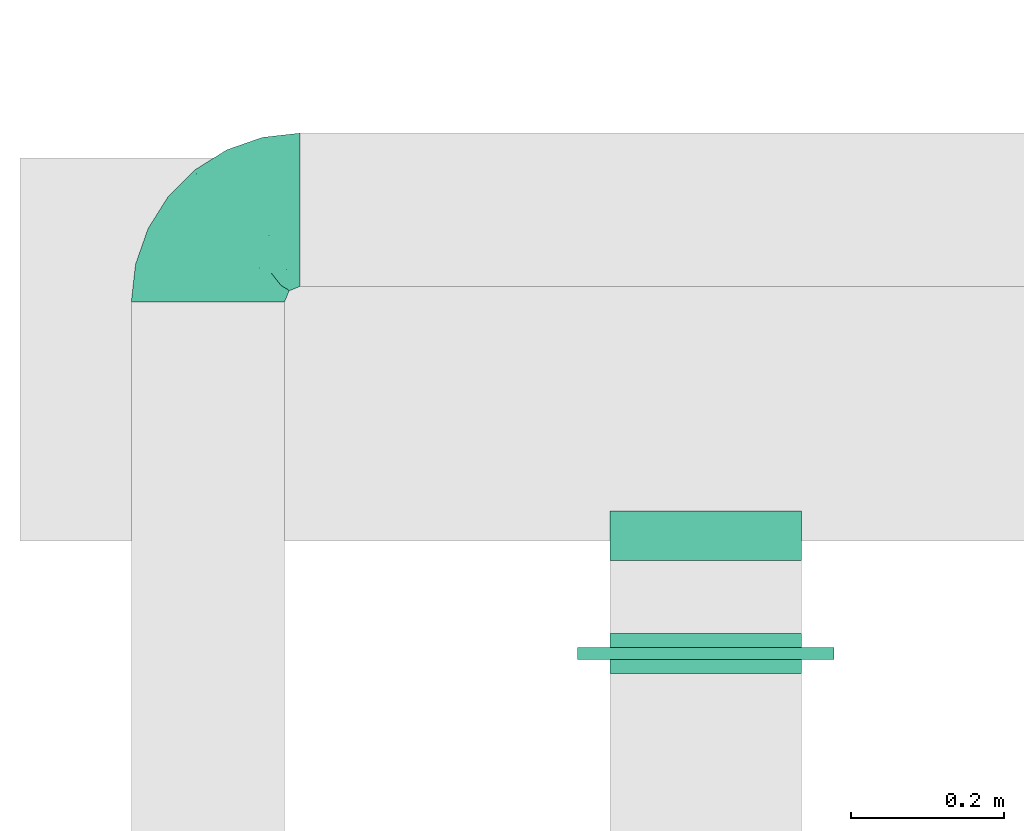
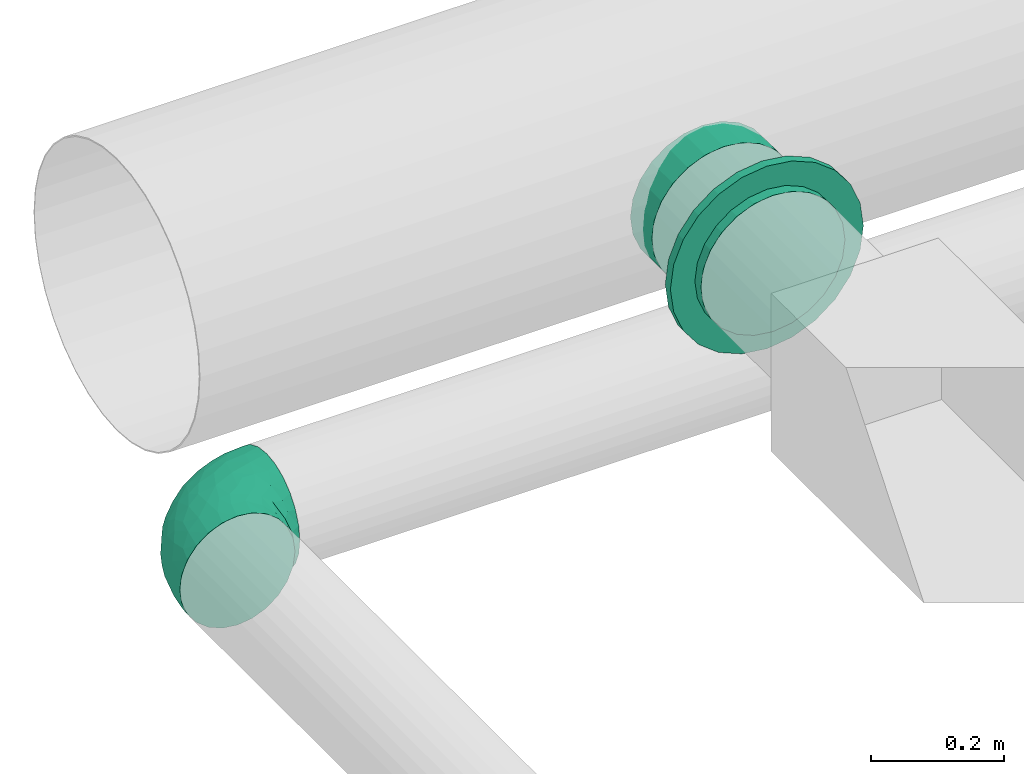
# One storey, part 3 of 31: 2 flow fittings, 1 flow controller.
"""IFC2X3 building model written with IfcOpenShell, lengths in millimetres."""

from ifc_helpers import new_model, entity, si_unit, converted_unit, derived_unit, direction, frame, origin_with_axes, place, context, subcontext, project, spatial, open_shell, surface_model, source, transform, mapped, type_object, element, save


model = new_model("IFC2X3")

# Units and contexts
model_context = context("Model", 3, precision=0.01, world=frame((0.0, 4.29681676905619e-09, 0.0)), true_north=direction((4.01073788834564e-13, 1.0)))
plan_context = context("Plan", 3, precision=0.01, world=frame((0.0, 4.29681676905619e-09, 0.0)), true_north=direction((4.01073788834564e-13, 1.0)))
body_context = subcontext(model_context, "Body", "Model", "MODEL_VIEW")
ifc_project = project(units=[converted_unit("PLANEANGLEUNIT", "DEGREE", entity("IfcPositiveLengthMeasure", 0.0174532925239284), si_unit("PLANEANGLEUNIT", "RADIAN"), dimensions=[0, 0, 0, 0, 0, 0, 0]), si_unit("AREAUNIT", "SQUARE_METRE"), si_unit("LENGTHUNIT", "METRE", prefix="MILLI"), si_unit("MASSUNIT", "GRAM", prefix="KILO"), si_unit("POWERUNIT", "WATT"), si_unit("PRESSUREUNIT", "PASCAL", prefix="KILO"), si_unit("FORCEUNIT", "NEWTON", prefix="KILO"), si_unit("ELECTRICVOLTAGEUNIT", "VOLT"), si_unit("ELECTRICCURRENTUNIT", "AMPERE"), si_unit("THERMODYNAMICTEMPERATUREUNIT", "DEGREE_CELSIUS"), si_unit("TIMEUNIT", "SECOND"), si_unit("VOLUMEUNIT", "CUBIC_METRE"), derived_unit("LINEARVELOCITYUNIT", [(si_unit("LENGTHUNIT", "METRE"), 1), (si_unit("TIMEUNIT", "SECOND"), -1)]), derived_unit("VOLUMETRICFLOWRATEUNIT", [(si_unit("VOLUMEUNIT", "CUBIC_METRE"), 1), (si_unit("TIMEUNIT", "SECOND"), -1)]), derived_unit("THERMALTRANSMITTANCEUNIT", [(si_unit("POWERUNIT", "WATT"), 1), (si_unit("THERMODYNAMICTEMPERATUREUNIT", "KELVIN"), -1), (si_unit("AREAUNIT", "SQUARE_METRE"), -1)]), derived_unit("SOUNDPRESSUREUNIT", [(si_unit("PRESSUREUNIT", "PASCAL"), 1)])], contexts=[model_context, plan_context])

# Site, building, storey
site_placement = place(None, frame((0.0, -4.29681676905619e-09, 0.0), z_axis=(0.0, 0.0, 1.0), x_axis=(1.0, 0.0, 0.0)))
site = spatial("IfcSite", under=ifc_project, at=site_placement, CompositionType="ELEMENT")
building_placement = place(site_placement, frame((0.0, 4.29681676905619e-09, 0.0), z_axis=(0.0, 0.0, 1.0), x_axis=(1.0, 0.0, 0.0)))
building = spatial("IfcBuilding", under=site, at=building_placement, Name="mc-building", CompositionType="ELEMENT")
storey_placement = place(building_placement, frame((0.0, 0.0, 210900.0), z_axis=(0.0, 0.0, 1.0), x_axis=(1.0, 0.0, 0.0)))
storey = spatial("IfcBuildingStorey", under=building, at=storey_placement, Name="Nivå F", CompositionType="ELEMENT", Elevation=210900.0)

# Flow controller
damper_type = type_object("IfcDamperType", Name="IRIS-025", PredefinedType="BALANCINGDAMPER")
shared_shape_1 = source(origin_with_axes(), body_context, "Body", "SurfaceModel", [
    surface_model("IfcShellBasedSurfaceModel", [(26.0, 32.35238, -120.74073), (26.0, 62.5, -108.25318), (26.0, 88.38835, -88.38835), (26.0, 108.25318, -62.5), (26.0, 120.74073, -32.35238), (26.0, -120.74073, -32.35238), (26.0, -125.0, 0.0), (26.0, 0.0, -125.0), (26.0, -62.5, -108.25318), (26.0, -32.35238, -120.74073), (26.0, -108.25318, -62.5), (26.0, -88.38835, -88.38835), (26.0, 125.0, 0.0), (26.0, 120.74073, 32.35238), (26.0, 108.25318, 62.5), (26.0, 88.38835, 88.38835), (26.0, -32.35238, 120.74073), (26.0, 32.35238, 120.74073), (26.0, 0.0, 125.0), (26.0, 62.5, 108.25318), (26.0, -108.25318, 62.5), (26.0, -120.74073, 32.35238), (26.0, -88.38835, 88.38835), (26.0, -62.5, 108.25318), (7.8, 88.38835, 88.38835), (7.8, 0.0, 125.0), (7.8, 32.35238, 120.74073), (7.8, 62.5, 108.25318), (7.8, 108.25318, 62.5), (7.8, 120.74073, 32.35238), (7.8, -32.35238, 120.74073), (7.8, -120.74073, -32.35238), (7.8, -88.38835, 88.38835), (7.8, -62.5, 108.25318), (7.8, -108.25318, 62.5), (7.8, -125.0, 0.0), (7.8, -120.74073, 32.35238), (7.8, 120.74073, -32.35238), (7.8, 32.35238, -120.74073), (7.8, 88.38835, -88.38835), (7.8, 108.25318, -62.5), (7.8, 62.5, -108.25318), (7.8, -62.5, -108.25318), (7.8, -108.25318, -62.5), (7.8, -88.38835, -88.38835), (7.8, 0.0, -125.0), (7.8, -32.35238, -120.74073), (7.8, 125.0, 0.0), (7.8, 167.5, 0.0), (7.8, 43.35219, -161.79258), (7.8, 83.75, -145.05925), (7.8, 161.79258, -43.35219), (7.8, 118.44038, -118.44038), (7.8, 145.05925, -83.75), (7.8, -145.05925, -83.75), (7.8, 0.0, -167.5), (7.8, -83.75, -145.05925), (7.8, -43.35219, -161.79258), (7.8, -118.44038, -118.44038), (7.8, -161.79258, -43.35219), (7.8, 161.79258, 43.35219), (7.8, 145.05925, 83.75), (7.8, 118.44038, 118.44038), (7.8, 43.35219, 161.79258), (7.8, -145.05925, 83.75), (7.8, 83.75, 145.05925), (7.8, -43.35219, 161.79258), (7.8, 0.0, 167.5), (7.8, -161.79258, 43.35219), (7.8, -167.5, 0.0), (7.8, -118.44038, 118.44038), (7.8, -83.75, 145.05925), (-7.8, 43.35219, 161.79258), (-7.8, -43.35219, 161.79258), (-7.8, 0.0, 167.5), (-7.8, 118.44038, 118.44038), (-7.8, 83.75, 145.05925), (-7.8, 145.05925, 83.75), (-7.8, 161.79258, 43.35219), (-7.8, -145.05925, 83.75), (-7.8, -118.44038, 118.44038), (-7.8, -83.75, 145.05925), (-7.8, -167.5, 0.0), (-7.8, -161.79258, 43.35219), (-7.8, 161.79258, -43.35219), (-7.8, -145.05925, -83.75), (-7.8, 43.35219, -161.79258), (-7.8, 145.05925, -83.75), (-7.8, 118.44038, -118.44038), (-7.8, 83.75, -145.05925), (-7.8, -83.75, -145.05925), (-7.8, -118.44038, -118.44038), (-7.8, -161.79258, -43.35219), (-7.8, 0.0, -167.5), (-7.8, -43.35219, -161.79258), (-7.8, 167.5, 0.0), (-7.8, 32.35238, -120.74073), (-7.8, 62.5, -108.25318), (-7.8, 88.38835, -88.38835), (-7.8, 108.25318, -62.5), (-7.8, 120.74073, -32.35238), (-7.8, -120.74073, -32.35238), (-7.8, -125.0, 0.0), (-7.8, 0.0, -125.0), (-7.8, -62.5, -108.25318), (-7.8, -32.35238, -120.74073), (-7.8, -108.25318, -62.5), (-7.8, -88.38835, -88.38835), (-7.8, 125.0, 0.0), (-7.8, 120.74073, 32.35238), (-7.8, 108.25318, 62.5), (-7.8, 88.38835, 88.38835), (-7.8, -32.35238, 120.74073), (-7.8, 32.35238, 120.74073), (-7.8, 0.0, 125.0), (-7.8, 62.5, 108.25318), (-7.8, -108.25318, 62.5), (-7.8, -120.74073, 32.35238), (-7.8, -88.38835, 88.38835), (-7.8, -62.5, 108.25318), (-26.0, 88.38835, 88.38835), (-26.0, 0.0, 125.0), (-26.0, 32.35238, 120.74073), (-26.0, 62.5, 108.25318), (-26.0, 108.25318, 62.5), (-26.0, 120.74073, 32.35238), (-26.0, -32.35238, 120.74073), (-26.0, -120.74073, -32.35238), (-26.0, -88.38835, 88.38835), (-26.0, -62.5, 108.25318), (-26.0, -108.25318, 62.5), (-26.0, -125.0, 0.0), (-26.0, -120.74073, 32.35238), (-26.0, 120.74073, -32.35238), (-26.0, 32.35238, -120.74073), (-26.0, 88.38835, -88.38835), (-26.0, 108.25318, -62.5), (-26.0, 62.5, -108.25318), (-26.0, -62.5, -108.25318), (-26.0, -108.25318, -62.5), (-26.0, -88.38835, -88.38835), (-26.0, 0.0, -125.0), (-26.0, -32.35238, -120.74073), (-26.0, 125.0, 0.0)], [open_shell([[[0, 1, 2]], [[0, 2, 3]], [[0, 4, 5]], [[4, 0, 3]], [[6, 5, 4]], [[7, 8, 9]], [[7, 0, 8]], [[8, 10, 11]], [[10, 8, 5]], [[0, 5, 8]], [[4, 12, 6]], [[13, 14, 15]], [[16, 13, 15]], [[17, 18, 15]], [[17, 15, 19]], [[16, 15, 18]], [[6, 20, 21]], [[20, 6, 16]], [[22, 16, 23]], [[16, 22, 20]], [[6, 13, 16]], [[13, 6, 12]], [[24, 25, 26]], [[24, 26, 27]], [[24, 28, 29]], [[25, 24, 30]], [[31, 30, 24]], [[30, 32, 33]], [[32, 30, 34]], [[34, 35, 36]], [[35, 34, 30]], [[35, 30, 31]], [[31, 24, 29]], [[37, 38, 29]], [[39, 37, 40]], [[39, 41, 38]], [[39, 38, 37]], [[29, 38, 42]], [[43, 42, 44]], [[42, 43, 31]], [[42, 45, 46]], [[31, 29, 42]], [[38, 45, 42]], [[37, 29, 47]], [[31, 5, 35]], [[43, 10, 31]], [[8, 44, 42]], [[43, 44, 11]], [[9, 42, 46]], [[31, 10, 5]], [[5, 6, 35]], [[9, 8, 42]], [[11, 44, 8]], [[11, 10, 43]], [[7, 9, 46]], [[46, 45, 7]], [[38, 0, 45]], [[41, 1, 38]], [[3, 39, 40]], [[41, 39, 2]], [[4, 40, 37]], [[41, 2, 1]], [[1, 0, 38]], [[12, 4, 37]], [[3, 40, 4]], [[3, 2, 39]], [[47, 12, 37]], [[45, 0, 7]], [[29, 13, 47]], [[28, 14, 29]], [[19, 24, 27]], [[28, 24, 15]], [[17, 27, 26]], [[29, 14, 13]], [[13, 12, 47]], [[17, 19, 27]], [[15, 24, 19]], [[15, 14, 28]], [[18, 17, 26]], [[26, 25, 18]], [[16, 25, 30]], [[33, 23, 30]], [[20, 34, 36]], [[21, 36, 35]], [[33, 22, 23]], [[23, 16, 30]], [[32, 20, 22]], [[32, 34, 20]], [[20, 36, 21]], [[35, 6, 21]], [[32, 22, 33]], [[25, 16, 18]], [[48, 49, 50]], [[51, 50, 52]], [[51, 48, 50]], [[51, 52, 53]], [[49, 48, 54]], [[55, 56, 57]], [[55, 49, 56]], [[56, 54, 58]], [[49, 54, 56]], [[48, 59, 54]], [[48, 60, 59]], [[60, 61, 62]], [[60, 62, 63]], [[60, 63, 64]], [[63, 62, 65]], [[66, 63, 67]], [[59, 68, 69]], [[64, 68, 59]], [[70, 66, 71]], [[66, 70, 64]], [[63, 66, 64]], [[64, 59, 60]], [[72, 73, 74]], [[75, 72, 76]], [[75, 77, 78]], [[75, 78, 72]], [[79, 72, 78]], [[73, 80, 81]], [[80, 73, 79]], [[79, 82, 83]], [[79, 73, 72]], [[78, 82, 79]], [[78, 84, 82]], [[82, 84, 85]], [[86, 84, 87]], [[88, 89, 86]], [[88, 86, 87]], [[85, 84, 86]], [[85, 90, 91]], [[92, 82, 85]], [[90, 93, 94]], [[90, 85, 86]], [[93, 90, 86]], [[84, 78, 95]], [[92, 59, 82]], [[85, 54, 92]], [[56, 91, 90]], [[85, 91, 58]], [[57, 90, 94]], [[92, 54, 59]], [[59, 69, 82]], [[57, 56, 90]], [[58, 91, 56]], [[58, 54, 85]], [[55, 57, 94]], [[94, 93, 55]], [[86, 49, 93]], [[89, 50, 86]], [[53, 88, 87]], [[89, 88, 52]], [[51, 87, 84]], [[89, 52, 50]], [[50, 49, 86]], [[48, 51, 84]], [[53, 87, 51]], [[53, 52, 88]], [[95, 48, 84]], [[93, 49, 55]], [[78, 60, 95]], [[77, 61, 78]], [[65, 75, 76]], [[77, 75, 62]], [[63, 76, 72]], [[78, 61, 60]], [[60, 48, 95]], [[63, 65, 76]], [[62, 75, 65]], [[62, 61, 77]], [[67, 63, 72]], [[72, 74, 67]], [[74, 73, 66]], [[64, 79, 83]], [[79, 70, 80]], [[68, 83, 82]], [[73, 71, 66]], [[71, 73, 81]], [[71, 81, 70]], [[81, 80, 70]], [[79, 64, 70]], [[68, 64, 83]], [[82, 69, 68]], [[74, 66, 67]], [[96, 97, 98]], [[96, 98, 99]], [[96, 100, 101]], [[100, 96, 99]], [[102, 101, 100]], [[103, 104, 105]], [[103, 96, 104]], [[104, 106, 107]], [[106, 104, 101]], [[96, 101, 104]], [[100, 108, 102]], [[109, 110, 111]], [[112, 109, 111]], [[113, 114, 111]], [[113, 111, 115]], [[112, 111, 114]], [[102, 116, 117]], [[116, 102, 112]], [[118, 112, 119]], [[112, 118, 116]], [[102, 109, 112]], [[109, 102, 108]], [[120, 121, 122]], [[120, 122, 123]], [[120, 124, 125]], [[121, 120, 126]], [[127, 126, 120]], [[126, 128, 129]], [[128, 126, 130]], [[130, 131, 132]], [[131, 130, 126]], [[131, 126, 127]], [[127, 120, 125]], [[133, 134, 125]], [[135, 133, 136]], [[135, 137, 134]], [[135, 134, 133]], [[125, 134, 138]], [[139, 138, 140]], [[138, 139, 127]], [[138, 141, 142]], [[127, 125, 138]], [[134, 141, 138]], [[133, 125, 143]], [[127, 101, 131]], [[139, 106, 127]], [[104, 140, 138]], [[139, 140, 107]], [[105, 138, 142]], [[127, 106, 101]], [[101, 102, 131]], [[105, 104, 138]], [[107, 140, 104]], [[107, 106, 139]], [[103, 105, 142]], [[142, 141, 103]], [[134, 96, 141]], [[137, 97, 134]], [[99, 135, 136]], [[137, 135, 98]], [[100, 136, 133]], [[137, 98, 97]], [[97, 96, 134]], [[108, 100, 133]], [[99, 136, 100]], [[99, 98, 135]], [[143, 108, 133]], [[141, 96, 103]], [[125, 109, 143]], [[124, 110, 125]], [[115, 120, 123]], [[124, 120, 111]], [[113, 123, 122]], [[125, 110, 109]], [[109, 108, 143]], [[113, 115, 123]], [[111, 120, 115]], [[111, 110, 124]], [[114, 113, 122]], [[122, 121, 114]], [[112, 121, 126]], [[129, 119, 126]], [[116, 130, 132]], [[117, 132, 131]], [[129, 118, 119]], [[119, 112, 126]], [[128, 116, 118]], [[128, 130, 116]], [[116, 132, 117]], [[131, 102, 117]], [[128, 118, 129]], [[121, 112, 114]]])]),
])
flow_controller_placement = place(storey_placement, frame((715332.69489, 438035.23478, 3950.0), z_axis=(0.0, 0.0, 1.0), x_axis=(0.0, -1.0, 0.0)))
element("IfcFlowController", 1, at=flow_controller_placement, inside=storey, type_object=damper_type, Name="IRIS-025", context=body_context, shape_type="MappedRepresentation", body=[
    mapped(shared_shape_1, transform((0.0, 0.0, 0.0), scale=1.0)),
])

# Flow fittings
duct_fitting_type_1 = type_object("IfcDuctFittingType", Name="magicirc_elbow_short_001", PredefinedType="BEND")
shared_shape_2 = source(origin_with_axes(), body_context, "Body", "SurfaceModel", [
    surface_model("IfcShellBasedSurfaceModel", [(-120.0, 0.0, -100.0), (-120.0, -86.60254, -50.0), (-120.0, 25.8819, -96.59259), (-120.0, 50.0, -86.60254), (-120.0, 70.71068, -70.71068), (-120.0, 96.59259, -25.8819), (-120.0, 86.60254, -50.0), (-120.0, -50.0, -86.60254), (-120.0, -70.71068, -70.71068), (-120.0, -25.8819, -96.59259), (-120.0, -96.59259, -25.8819), (-120.0, -100.0, 0.0), (-120.0, 96.59259, 25.8819), (-120.0, -96.59259, 25.8819), (-120.0, 86.60254, 50.0), (-120.0, 25.8819, 96.59259), (-120.0, 50.0, 86.60254), (-120.0, 70.71068, 70.71068), (-120.0, -25.8819, 96.59259), (-120.0, -70.71068, 70.71068), (-120.0, -50.0, 86.60254), (-120.0, -86.60254, 50.0), (-120.0, 0.0, 100.0), (-120.0, 100.0, 0.0), (-25.8819, 120.0, -96.59259), (70.71068, 120.0, -70.71068), (0.0, 120.0, -100.0), (-70.71068, 120.0, -70.71068), (-50.0, 120.0, -86.60254), (-86.60254, 120.0, -50.0), (-96.59259, 120.0, -25.8819), (86.60254, 120.0, -50.0), (25.8819, 120.0, -96.59259), (50.0, 120.0, -86.60254), (100.0, 120.0, 0.0), (96.59259, 120.0, -25.8819), (-96.59259, 120.0, 25.8819), (96.59259, 120.0, 25.8819), (-25.8819, 120.0, 96.59259), (-86.60254, 120.0, 50.0), (-70.71068, 120.0, 70.71068), (-50.0, 120.0, 86.60254), (25.8819, 120.0, 96.59259), (86.60254, 120.0, 50.0), (50.0, 120.0, 86.60254), (70.71068, 120.0, 70.71068), (0.0, 120.0, 100.0), (-100.0, 120.0, 0.0), (-57.47657, 95.22229, 84.95805), (-85.33946, -92.96309, 28.79275), (-95.20929, -97.20676, 0.0), (-84.48473, -65.01559, 72.95431), (-52.96075, -70.60035, 57.16979), (-58.29219, -58.77958, 72.2572), (-71.0454, -94.48414, 0.0), (-33.46621, 86.30074, 96.24781), (-7.45333, 88.76819, 99.94878), (-26.53059, -25.83103, 84.66541), (5.23459, -24.1841, 70.44192), (-1.23107, 1.23105, 87.74618), (-103.71213, 103.71213, 24.44784), (-95.28171, 98.70414, 48.64074), (-78.83961, -43.63421, 87.3226), (48.45058, -8.12007, 40.03254), (39.62941, -27.51041, 22.8702), (55.13075, -9.11298, 21.86769), (27.15427, -27.15428, 47.29752), (-0.9865, -46.35038, 53.41318), (-49.25997, -85.42957, 23.21428), (-69.41482, -80.94006, 48.93369), (34.63169, 2.36241, 66.9375), (-59.03727, -17.74459, 95.19283), (-92.36993, -18.34983, 97.75252), (-98.24586, -81.70799, 55.95793), (-87.21661, 7.38787, 99.96319), (-79.82304, 33.86298, 96.83649), (-103.25245, 34.36931, 94.48617), (-49.8635, 16.95363, 99.89181), (-93.99414, 57.52782, 85.21417), (-13.524, 31.6217, 98.29715), (-30.34675, -2.85909, 94.71053), (-102.74619, 77.59979, 67.01377), (-105.2102, 88.7141, 52.03645), (94.48414, 71.0454, 0.0), (92.96309, 85.33946, 28.79275), (85.42957, 49.25997, 23.21428), (18.34983, 92.36993, 97.75252), (-37.44754, -44.66633, 76.66985), (-66.8783, 56.54931, 92.80405), (65.01559, 84.48473, 72.95431), (43.6342, 78.83961, 87.3226), (37.67702, 38.38344, 81.78155), (58.58205, 33.30331, 61.93165), (58.77958, 58.29217, 72.2572), (14.52663, -47.57763, 31.54394), (81.70799, 98.24586, 55.95793), (97.20676, 95.20929, 0.0), (75.2275, 38.8764, 40.54554), (80.94006, 69.41482, 48.93369), (-19.32309, 64.21329, 99.87988), (-105.85786, 105.85786, 0.0), (17.74458, 59.03726, 95.19283), (70.60036, 52.96074, 57.16978), (-82.76473, 82.76473, 73.92657), (-77.59979, 102.74619, 67.01377), (-38.87641, -75.2275, 40.54555), (-40.86148, 50.04827, 98.96107), (-25.82378, -76.70765, 19.45345), (-49.50418, 71.23352, 93.94065), (-57.3172, 35.12243, 98.9453), (65.10804, 3.68891, 0.0), (65.80674, 11.30259, 30.40508), (15.01777, 28.10412, 90.12797), (-0.1518, 65.0789, 99.29745), (-47.79548, -86.34864, 0.0), (-67.45496, 75.91085, 85.7741), (-3.68891, -65.10804, 0.0), (17.16776, -52.00293, 0.0), (-11.30259, -65.80674, 30.40508), (-24.54558, -78.21315, 0.0), (76.76895, 27.91333, 23.28633), (86.34864, 47.79548, 0.0), (58.40844, 13.74403, 48.13414), (52.00293, -17.16776, 0.0), (20.33542, 8.19535, 80.42602), (-51.11653, -33.50476, 87.58865), (-33.30333, -58.58206, 61.93166), (-17.26255, -60.80757, 47.57586), (78.21315, 24.54558, 0.0), (34.58534, -34.58534, 0.0), (-86.30074, 33.4662, -96.24781), (-34.36932, 103.25245, -94.48617), (-11.30259, -65.80673, -30.40508), (9.11298, -55.13075, -21.86769), (-98.24586, -81.70799, -55.95793), (-88.7682, 7.45333, -99.94878), (43.63421, 78.83961, -87.3226), (-98.70414, 95.28171, -48.64074), (-82.76473, 82.76473, -73.92657), (-102.74619, 77.59979, -67.01377), (85.42957, 49.25997, -23.21428), (75.22749, 38.8764, -40.54555), (80.94006, 69.41482, -48.93369), (27.15427, -27.15428, -47.29753), (47.57763, -14.52663, -31.54396), (27.51041, -39.62941, -22.8702), (-71.23352, 49.50417, -93.94066), (-56.54932, 66.8783, -92.80405), (-50.04827, 40.86148, -98.96107), (-33.86298, 79.82303, -96.83649), (-57.52782, 93.99414, -85.21417), (-16.95364, 49.8635, -99.89182), (-31.6217, 13.52399, -98.29715), (-85.33946, -92.96309, -28.79275), (24.18408, -5.23461, -70.44192), (46.35038, 0.9865, -53.41318), (65.01559, 84.48472, -72.95431), (-84.48473, -65.01559, -72.95431), (-78.83961, -43.63421, -87.3226), (-103.71213, 103.71213, -24.44784), (-95.22229, 57.47657, -84.95805), (-49.25997, -85.42957, -23.21428), (-92.36993, -18.34984, -97.75252), (-38.87641, -75.2275, -40.54555), (-69.41482, -80.94006, -48.93369), (-88.7141, 105.2102, -52.03645), (-7.38786, 87.21659, -99.96319), (17.74459, 59.03726, -95.19283), (-33.30333, -58.58206, -61.93166), (-52.96075, -70.60035, -57.16979), (-77.59979, 102.74619, -67.01377), (-38.38346, -37.67703, -81.78155), (-2.36242, -34.6317, -66.93751), (18.34983, 92.36993, -97.75252), (81.70799, 98.24586, -55.95793), (8.12006, -48.45058, -40.03254), (-1.23106, 1.23105, -87.74618), (25.83103, 26.53058, -84.6654), (92.96309, 85.33946, -28.79275), (76.70765, 25.82378, -19.45345), (-59.03727, -17.74459, -95.19283), (2.8591, 30.34673, -94.71053), (-64.21329, 19.32309, -99.87988), (58.77958, 58.29219, -72.2572), (70.60035, 52.96075, -57.16979), (-58.29219, -58.77958, -72.2572), (-35.12244, 57.3172, -98.9453), (44.66633, 37.44754, -76.66985), (-28.10413, -15.01778, -90.12797), (-65.07891, 0.1518, -99.29745), (-75.91086, 67.45496, -85.7741), (-27.91333, -76.76895, -23.28633), (-13.74403, -58.40844, -48.13415), (65.80673, 11.30258, -30.40508), (-8.19536, -20.33543, -80.42602), (33.50476, 51.11653, -87.58865), (58.58205, 33.30333, -61.93166), (60.80757, 17.26255, -47.57586)], [open_shell([[[0, 1, 2]], [[3, 2, 4]], [[5, 6, 4]], [[1, 4, 2]], [[4, 1, 5]], [[7, 8, 9]], [[8, 0, 9]], [[10, 11, 1]], [[1, 0, 8]], [[1, 11, 5]], [[11, 12, 5]], [[12, 11, 13]], [[14, 12, 15]], [[15, 16, 17]], [[14, 15, 17]], [[15, 12, 18]], [[19, 20, 21]], [[13, 21, 20]], [[13, 20, 12]], [[20, 18, 12]], [[18, 22, 15]], [[23, 5, 12]], [[24, 25, 26]], [[27, 24, 28]], [[27, 29, 30]], [[24, 27, 31]], [[30, 31, 27]], [[32, 25, 33]], [[32, 26, 25]], [[31, 34, 35]], [[25, 24, 31]], [[30, 34, 31]], [[30, 36, 34]], [[37, 34, 36]], [[38, 36, 39]], [[40, 41, 38]], [[40, 38, 39]], [[42, 36, 38]], [[43, 44, 45]], [[44, 43, 37]], [[36, 44, 37]], [[36, 42, 44]], [[38, 46, 42]], [[36, 30, 47]], [[41, 40, 48]], [[49, 13, 50]], [[49, 21, 13]], [[51, 52, 53]], [[50, 54, 49]], [[38, 55, 56]], [[57, 58, 59]], [[60, 61, 36]], [[20, 51, 62]], [[63, 64, 65]], [[66, 58, 67]], [[49, 68, 69]], [[20, 19, 51]], [[58, 66, 70]], [[62, 71, 72]], [[22, 18, 72]], [[73, 19, 21]], [[74, 75, 76]], [[75, 74, 77]], [[16, 76, 78]], [[79, 77, 80]], [[17, 81, 14]], [[82, 12, 14]], [[81, 82, 14]], [[23, 12, 60]], [[83, 84, 85]], [[16, 78, 17]], [[41, 48, 55]], [[42, 46, 86]], [[53, 87, 62]], [[18, 20, 62]], [[75, 88, 78]], [[89, 45, 44]], [[86, 90, 42]], [[60, 12, 82]], [[44, 42, 90]], [[91, 92, 93]], [[84, 37, 43]], [[66, 94, 64]], [[90, 89, 44]], [[45, 95, 43]], [[84, 96, 37]], [[97, 85, 98]], [[15, 76, 16]], [[99, 56, 55]], [[100, 23, 60]], [[91, 90, 101]], [[100, 60, 47]], [[92, 97, 102]], [[103, 104, 61]], [[68, 105, 69]], [[106, 77, 79]], [[61, 39, 36]], [[40, 39, 104]], [[15, 22, 74]], [[107, 105, 68]], [[108, 88, 106]], [[55, 38, 41]], [[56, 46, 38]], [[92, 91, 70]], [[109, 77, 106]], [[110, 111, 65]], [[74, 71, 77]], [[72, 74, 22]], [[80, 71, 57]], [[75, 109, 88]], [[81, 78, 103]], [[112, 79, 59]], [[113, 56, 99]], [[68, 54, 114]], [[73, 49, 69]], [[95, 84, 43]], [[85, 84, 98]], [[104, 48, 40]], [[115, 88, 108]], [[108, 99, 55]], [[56, 113, 86]], [[102, 93, 92]], [[95, 89, 98]], [[73, 51, 19]], [[52, 69, 105]], [[116, 117, 118]], [[68, 119, 107]], [[107, 116, 118]], [[67, 94, 66]], [[97, 111, 120]], [[85, 121, 83]], [[70, 63, 122]], [[65, 123, 110]], [[101, 112, 91]], [[66, 64, 63]], [[124, 91, 112]], [[70, 124, 58]], [[59, 80, 57]], [[58, 87, 67]], [[57, 125, 87]], [[58, 57, 87]], [[99, 108, 106]], [[78, 88, 115]], [[56, 86, 46]], [[90, 86, 101]], [[62, 72, 18]], [[74, 72, 71]], [[61, 104, 39]], [[104, 103, 115]], [[78, 81, 17]], [[82, 103, 61]], [[126, 127, 67]], [[67, 127, 94]], [[85, 128, 121]], [[94, 129, 64]], [[110, 120, 111]], [[63, 65, 111]], [[122, 63, 111]], [[70, 66, 63]], [[79, 80, 59]], [[77, 71, 80]], [[106, 79, 99]], [[113, 79, 101]], [[55, 48, 108]], [[48, 104, 115]], [[48, 115, 108]], [[78, 115, 103]], [[127, 105, 118]], [[105, 127, 52]], [[53, 52, 126]], [[51, 69, 52]], [[87, 53, 126]], [[62, 51, 53]], [[87, 126, 67]], [[57, 71, 125]], [[71, 62, 125]], [[62, 87, 125]], [[102, 97, 98]], [[122, 97, 92]], [[98, 89, 102]], [[93, 102, 89]], [[89, 90, 93]], [[91, 93, 90]], [[97, 122, 111]], [[70, 122, 92]], [[79, 113, 99]], [[86, 113, 101]], [[64, 123, 65]], [[85, 97, 120]], [[79, 112, 101]], [[120, 110, 128]], [[124, 112, 59]], [[58, 124, 59]], [[91, 124, 70]], [[103, 82, 81]], [[82, 61, 60]], [[13, 11, 50]], [[96, 84, 83]], [[96, 34, 37]], [[47, 60, 36]], [[74, 76, 15]], [[78, 76, 75]], [[49, 73, 21]], [[51, 73, 69]], [[89, 95, 45]], [[84, 95, 98]], [[88, 109, 106]], [[75, 77, 109]], [[54, 68, 49]], [[114, 119, 68]], [[105, 107, 118]], [[107, 119, 116]], [[117, 94, 118]], [[127, 126, 52]], [[94, 127, 118]], [[129, 94, 117]], [[129, 123, 64]], [[128, 85, 120]], [[3, 130, 2]], [[24, 131, 28]], [[132, 133, 116]], [[8, 134, 1]], [[2, 135, 0]], [[32, 33, 136]], [[137, 138, 139]], [[140, 141, 142]], [[6, 139, 4]], [[143, 144, 145]], [[6, 5, 137]], [[146, 147, 148]], [[149, 147, 150]], [[148, 151, 152]], [[1, 153, 10]], [[143, 154, 155]], [[153, 50, 10]], [[33, 25, 156]], [[157, 7, 158]], [[159, 137, 5]], [[8, 7, 157]], [[7, 9, 158]], [[3, 4, 160]], [[35, 34, 96]], [[54, 153, 161]], [[9, 162, 158]], [[163, 161, 164]], [[165, 30, 29]], [[23, 100, 159]], [[166, 167, 151]], [[47, 30, 159]], [[168, 163, 169]], [[29, 170, 165]], [[24, 26, 166]], [[168, 171, 172]], [[27, 170, 29]], [[149, 131, 166]], [[160, 130, 3]], [[149, 166, 151]], [[136, 167, 173]], [[174, 25, 31]], [[27, 28, 150]], [[28, 131, 150]], [[32, 173, 26]], [[136, 33, 156]], [[154, 143, 172]], [[2, 130, 135]], [[133, 175, 145]], [[154, 176, 177]], [[9, 0, 162]], [[140, 142, 178]], [[179, 141, 140]], [[96, 83, 178]], [[35, 96, 178]], [[171, 158, 180]], [[152, 151, 181]], [[182, 135, 130]], [[183, 156, 184]], [[171, 168, 185]], [[178, 31, 35]], [[173, 166, 26]], [[159, 5, 23]], [[149, 151, 186]], [[183, 187, 136]], [[181, 167, 177]], [[149, 186, 147]], [[170, 150, 138]], [[188, 152, 176]], [[189, 135, 182]], [[134, 153, 1]], [[161, 153, 164]], [[140, 83, 121]], [[174, 178, 142]], [[139, 160, 4]], [[190, 147, 146]], [[146, 182, 130]], [[135, 189, 162]], [[169, 185, 168]], [[134, 157, 164]], [[174, 156, 25]], [[184, 142, 141]], [[163, 132, 191]], [[161, 114, 54]], [[172, 175, 192]], [[133, 117, 116]], [[110, 123, 193]], [[140, 128, 179]], [[179, 110, 193]], [[155, 144, 143]], [[180, 188, 171]], [[143, 145, 175]], [[194, 171, 188]], [[172, 194, 154]], [[176, 181, 177]], [[154, 187, 155]], [[177, 195, 187]], [[154, 177, 187]], [[182, 146, 148]], [[150, 147, 190]], [[135, 162, 0]], [[158, 162, 180]], [[136, 173, 32]], [[166, 173, 167]], [[137, 139, 6]], [[139, 138, 190]], [[150, 170, 27]], [[165, 138, 137]], [[196, 197, 155]], [[155, 197, 144]], [[197, 196, 184]], [[144, 129, 145]], [[116, 191, 132]], [[175, 133, 132]], [[192, 175, 132]], [[172, 143, 175]], [[152, 181, 176]], [[151, 167, 181]], [[148, 152, 182]], [[189, 152, 180]], [[130, 160, 146]], [[160, 139, 190]], [[160, 190, 146]], [[150, 190, 138]], [[169, 163, 164]], [[192, 163, 168]], [[164, 157, 169]], [[185, 169, 157]], [[157, 158, 185]], [[171, 185, 158]], [[197, 141, 193]], [[141, 197, 184]], [[183, 184, 196]], [[156, 142, 184]], [[187, 183, 196]], [[136, 156, 183]], [[187, 196, 155]], [[177, 167, 195]], [[167, 136, 195]], [[136, 187, 195]], [[163, 192, 132]], [[172, 192, 168]], [[152, 189, 182]], [[162, 189, 180]], [[145, 117, 133]], [[161, 163, 191]], [[152, 188, 180]], [[191, 116, 119]], [[194, 188, 176]], [[154, 194, 176]], [[171, 194, 172]], [[138, 165, 170]], [[165, 137, 159]], [[50, 153, 54]], [[50, 11, 10]], [[47, 159, 100]], [[159, 30, 165]], [[166, 131, 24]], [[150, 131, 149]], [[178, 174, 31]], [[156, 174, 142]], [[157, 134, 8]], [[153, 134, 164]], [[151, 148, 186]], [[147, 186, 148]], [[161, 119, 114]], [[83, 140, 178]], [[121, 128, 140]], [[141, 179, 193]], [[179, 128, 110]], [[123, 144, 193]], [[144, 197, 193]], [[129, 144, 123]], [[129, 117, 145]], [[119, 161, 191]]])]),
])
flow_fitting_1_placement = place(storey_placement, frame((714683.20737, 438614.03588, 3320.0), z_axis=(0.0, 0.0, 1.0), x_axis=(-1.0, 0.0, 0.0)))
element("IfcFlowFitting", 2, at=flow_fitting_1_placement, inside=storey, type_object=duct_fitting_type_1, Name="magicirc_elbow_short_001", context=body_context, shape_type="MappedRepresentation", body=[
    mapped(shared_shape_2, transform((0.0, 0.0, 0.0), scale=1.0)),
])
duct_fitting_type_2 = type_object("IfcDuctFittingType", Name="magicirc_tapoutlet_001", PredefinedType="CONNECTOR")
shared_shape_3 = source(origin_with_axes(), body_context, "Body", "SurfaceModel", [
    surface_model("IfcShellBasedSurfaceModel", [(-39.58965, -88.38835, -88.38835), (-39.58965, -108.25318, -62.5), (-39.58965, -125.0, 0.0), (-39.58965, -62.5, -108.25318), (-39.58965, 108.25318, -62.5), (-39.58965, 88.38835, -88.38835), (-39.58965, 120.74073, 32.35238), (-39.58965, 0.0, -125.0), (0.0, 0.0, -125.0), (0.0, -32.35238, -120.74073), (-39.58965, -32.35238, -120.74073), (0.0, -62.5, -108.25318), (0.0, 32.35238, -120.74073), (0.0, 62.5, -108.25318), (-39.58965, 32.35238, -120.74073), (-39.58965, 62.5, -108.25318), (-39.58965, -120.74073, 32.35238), (-39.58965, -120.74073, -32.35238), (-39.58965, 120.74073, -32.35238), (-39.58965, 108.25318, 62.5), (-39.58965, 62.5, 108.25318), (-39.58965, 32.35238, 120.74073), (-39.58965, -108.25318, 62.5), (-39.58965, -88.38835, 88.38835), (-39.58965, -32.35238, 120.74073), (-39.58965, 0.0, 125.0), (-39.58965, -62.5, 108.25318), (-39.58965, 125.0, 0.0), (0.0, 0.0, 125.0), (0.0, 32.35238, 120.74073), (0.0, 62.5, 108.25318), (0.0, 88.38835, 88.38835), (-39.58965, 88.38835, 88.38835), (0.0, 108.25318, 62.5), (0.0, 120.74073, 32.35238), (0.0, 125.0, 0.0), (0.0, 120.74073, -32.35238), (0.0, 108.25318, -62.5), (0.0, 88.38835, -88.38835), (0.0, -88.38835, -88.38835), (0.0, -108.25318, -62.5), (0.0, -120.74073, -32.35238), (0.0, -125.0, 0.0), (0.0, -120.74073, 32.35238), (0.0, -108.25318, 62.5), (0.0, -88.38835, 88.38835), (0.0, -62.5, 108.25318), (0.0, -32.35238, 120.74073), (25.0, 120.74073, 32.35238), (25.0, 0.0, -125.0), (25.0, 32.35238, -120.74073), (25.0, 62.5, -108.25318), (25.0, 125.0, 0.0), (25.0, 88.38835, -88.38835), (25.0, 108.25318, -62.5), (25.0, -88.38835, -88.38835), (25.0, -120.74073, 32.35238), (25.0, -62.5, -108.25318), (25.0, -32.35238, -120.74073), (25.0, -108.25318, -62.5), (25.0, -120.74073, -32.35238), (25.0, -125.0, 0.0), (25.0, 120.74073, -32.35238), (25.0, 108.25318, 62.5), (25.0, 88.38835, 88.38835), (25.0, 32.35238, 120.74073), (25.0, 62.5, 108.25318), (25.0, -62.5, 108.25318), (25.0, -108.25318, 62.5), (25.0, -88.38835, 88.38835), (25.0, -32.35238, 120.74073), (25.0, 0.0, 125.0)], [open_shell([[[0, 1, 2]], [[0, 2, 3]], [[4, 5, 6]], [[7, 8, 9]], [[10, 9, 11]], [[3, 10, 11]], [[12, 8, 7]], [[13, 12, 14]], [[13, 14, 15]], [[5, 6, 4]], [[7, 10, 14]], [[14, 6, 15]], [[15, 6, 5]], [[14, 2, 16]], [[14, 10, 3]], [[17, 2, 1]], [[3, 2, 14]], [[18, 4, 6]], [[19, 6, 14]], [[20, 14, 21]], [[22, 23, 14]], [[24, 25, 26]], [[23, 26, 25]], [[27, 18, 6]], [[25, 28, 29]], [[21, 29, 30]], [[25, 29, 21]], [[20, 31, 32]], [[20, 21, 30]], [[31, 20, 30]], [[19, 33, 34]], [[6, 34, 35]], [[32, 33, 19]], [[6, 19, 34]], [[27, 6, 35]], [[33, 32, 31]], [[27, 35, 36]], [[18, 36, 37]], [[27, 36, 18]], [[4, 38, 5]], [[4, 18, 37]], [[38, 4, 37]], [[5, 13, 15]], [[7, 14, 12]], [[13, 5, 38]], [[7, 9, 10]], [[3, 39, 0]], [[39, 3, 11]], [[1, 40, 41]], [[17, 41, 42]], [[0, 40, 1]], [[17, 1, 41]], [[2, 17, 42]], [[40, 0, 39]], [[2, 42, 43]], [[16, 43, 44]], [[2, 43, 16]], [[22, 45, 23]], [[22, 16, 44]], [[45, 22, 44]], [[26, 46, 47]], [[24, 47, 28]], [[23, 46, 26]], [[24, 26, 47]], [[25, 24, 28]], [[46, 23, 45]], [[20, 32, 14]], [[6, 5, 15]], [[19, 14, 32]], [[14, 25, 21]], [[14, 16, 22]], [[25, 14, 23]], [[48, 49, 50]], [[51, 52, 50]], [[52, 53, 54]], [[51, 53, 52]], [[55, 49, 56]], [[49, 55, 57]], [[57, 58, 49]], [[59, 56, 60]], [[55, 56, 59]], [[56, 61, 60]], [[52, 54, 62]], [[48, 63, 49]], [[49, 63, 64]], [[65, 49, 66]], [[49, 64, 66]], [[67, 49, 65]], [[68, 56, 49]], [[69, 68, 49]], [[67, 69, 49]], [[70, 67, 65]], [[65, 71, 70]], [[50, 52, 48]], [[28, 71, 65]], [[29, 65, 66]], [[28, 65, 29]], [[30, 64, 31]], [[30, 29, 66]], [[64, 30, 66]], [[33, 63, 48]], [[34, 48, 52]], [[31, 63, 33]], [[34, 33, 48]], [[35, 34, 52]], [[63, 31, 64]], [[35, 52, 62]], [[36, 62, 54]], [[35, 62, 36]], [[37, 53, 38]], [[37, 36, 54]], [[53, 37, 54]], [[50, 49, 8]], [[51, 50, 12]], [[38, 51, 13]], [[8, 12, 50]], [[51, 12, 13]], [[51, 38, 53]], [[8, 49, 58]], [[9, 58, 57]], [[8, 58, 9]], [[11, 55, 39]], [[11, 9, 57]], [[55, 11, 57]], [[40, 59, 60]], [[41, 60, 61]], [[39, 59, 40]], [[41, 40, 60]], [[42, 41, 61]], [[59, 39, 55]], [[42, 61, 56]], [[43, 56, 68]], [[42, 56, 43]], [[44, 69, 45]], [[44, 43, 68]], [[69, 44, 68]], [[46, 67, 70]], [[47, 70, 71]], [[45, 67, 46]], [[47, 46, 70]], [[28, 47, 71]], [[67, 45, 69]], [[52, 49, 50]], [[59, 55, 56]], [[61, 60, 56]], [[63, 64, 49]], [[64, 66, 65]], [[65, 49, 64]], [[69, 49, 67]], [[65, 70, 67]], [[52, 48, 49]], [[14, 21, 20]], [[21, 14, 25]]])]),
])
flow_fitting_2_placement = place(storey_placement, frame((715332.69489, 438181.78045, 3950.0), z_axis=(0.0, 0.0, -1.0), x_axis=(0.0, -1.0, 0.0)))
element("IfcFlowFitting", 3, at=flow_fitting_2_placement, inside=storey, type_object=duct_fitting_type_2, Name="magicirc_tapoutlet_001", context=body_context, shape_type="MappedRepresentation", body=[
    mapped(shared_shape_3, transform((0.0, 0.0, 0.0), scale=1.0)),
])

save(model, "model.ifc")
